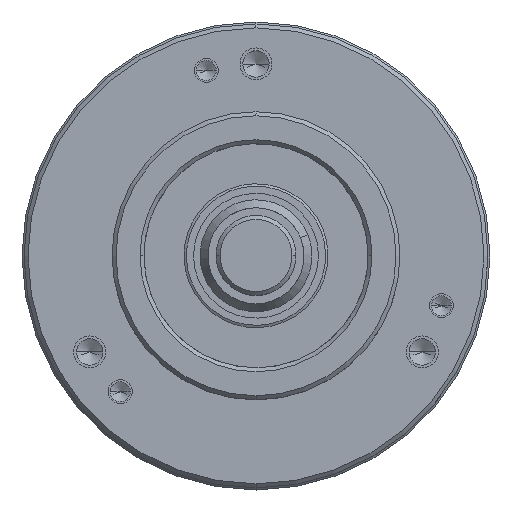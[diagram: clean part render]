
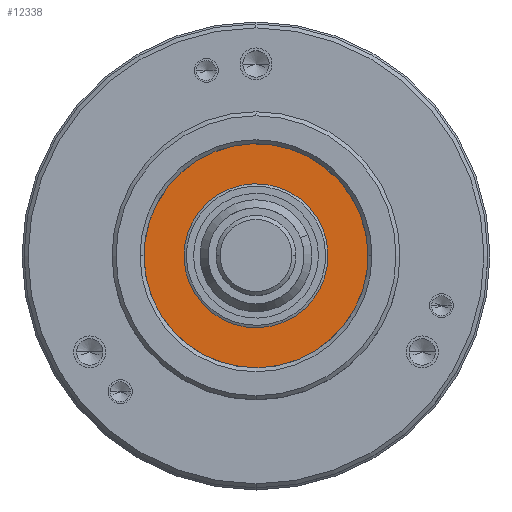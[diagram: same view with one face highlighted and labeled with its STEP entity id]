
A CAD part, top view. The second image highlights one B-rep face of the part: STEP entity #12338.
In plain terms, the highlighted planar face has unit normal (0, 0, 1).
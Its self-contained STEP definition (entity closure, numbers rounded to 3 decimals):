
#175 = FACE_BOUND ( 'NONE', #8760, .T. ) ;
#245 = EDGE_LOOP ( 'NONE', ( #16639, #14493 ) ) ;
#506 = ORIENTED_EDGE ( 'NONE', *, *, #4863, .T. ) ;
#752 = VERTEX_POINT ( 'NONE', #9819 ) ;
#1070 = DIRECTION ( 'NONE',  ( 0., 0., -1. ) ) ;
#1085 = CIRCLE ( 'NONE', #3885, 14. ) ;
#1988 = VERTEX_POINT ( 'NONE', #18397 ) ;
#2250 = DIRECTION ( 'NONE',  ( -0.927, -0.376, 0. ) ) ;
#2468 = DIRECTION ( 'NONE',  ( 0., 0., -1. ) ) ;
#2548 = EDGE_CURVE ( 'NONE', #752, #1988, #15439, .T. ) ;
#2751 = DIRECTION ( 'NONE',  ( -0.927, -0.376, 0. ) ) ;
#3572 = DIRECTION ( 'NONE',  ( -0.927, -0.376, 0. ) ) ;
#3885 = AXIS2_PLACEMENT_3D ( 'NONE', #6444, #12336, #3572 ) ;
#3913 = DIRECTION ( 'NONE',  ( -0.927, -0.376, 0. ) ) ;
#4647 = AXIS2_PLACEMENT_3D ( 'NONE', #9631, #15452, #2250 ) ;
#4862 = CARTESIAN_POINT ( 'NONE',  ( 12.974, 5.26, 0. ) ) ;
#4863 = EDGE_CURVE ( 'NONE', #1988, #752, #9871, .T. ) ;
#4914 = FACE_OUTER_BOUND ( 'NONE', #245, .T. ) ;
#5348 = DIRECTION ( 'NONE',  ( -0.927, -0.376, 0. ) ) ;
#5385 = CARTESIAN_POINT ( 'NONE',  ( 0., 0., 0. ) ) ;
#5412 = PLANE ( 'NONE',  #8420 ) ;
#5473 = CARTESIAN_POINT ( 'NONE',  ( 0., 0., 0. ) ) ;
#5740 = CARTESIAN_POINT ( 'NONE',  ( 0., 0., 0. ) ) ;
#6295 = AXIS2_PLACEMENT_3D ( 'NONE', #5740, #13223, #2751 ) ;
#6444 = CARTESIAN_POINT ( 'NONE',  ( 0., 0., 0. ) ) ;
#8420 = AXIS2_PLACEMENT_3D ( 'NONE', #5473, #1070, #5348 ) ;
#8699 = CARTESIAN_POINT ( 'NONE',  ( -12.974, -5.26, 0. ) ) ;
#8760 = EDGE_LOOP ( 'NONE', ( #506, #12283 ) ) ;
#8984 = VERTEX_POINT ( 'NONE', #8699 ) ;
#9631 = CARTESIAN_POINT ( 'NONE',  ( 0., 0., 0. ) ) ;
#9819 = CARTESIAN_POINT ( 'NONE',  ( -8.341, -3.381, 0. ) ) ;
#9871 = CIRCLE ( 'NONE', #15037, 9. ) ;
#12216 = EDGE_CURVE ( 'NONE', #16993, #8984, #1085, .T. ) ;
#12283 = ORIENTED_EDGE ( 'NONE', *, *, #2548, .T. ) ;
#12336 = DIRECTION ( 'NONE',  ( 0., 0., -1. ) ) ;
#12338 = ADVANCED_FACE ( 'NONE', ( #4914, #175 ), #5412, .F. ) ;
#13223 = DIRECTION ( 'NONE',  ( 0., 0., -1. ) ) ;
#14493 = ORIENTED_EDGE ( 'NONE', *, *, #17186, .F. ) ;
#15037 = AXIS2_PLACEMENT_3D ( 'NONE', #5385, #2468, #3913 ) ;
#15439 = CIRCLE ( 'NONE', #4647, 9. ) ;
#15452 = DIRECTION ( 'NONE',  ( 0., 0., -1. ) ) ;
#16405 = CIRCLE ( 'NONE', #6295, 14. ) ;
#16639 = ORIENTED_EDGE ( 'NONE', *, *, #12216, .F. ) ;
#16993 = VERTEX_POINT ( 'NONE', #4862 ) ;
#17186 = EDGE_CURVE ( 'NONE', #8984, #16993, #16405, .T. ) ;
#18397 = CARTESIAN_POINT ( 'NONE',  ( 8.341, 3.381, 0. ) ) ;
